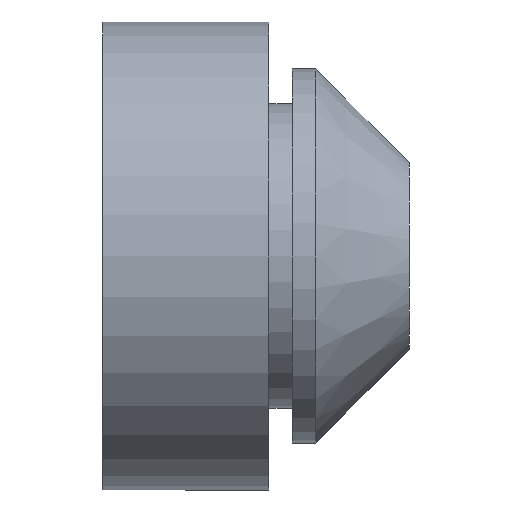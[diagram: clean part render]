
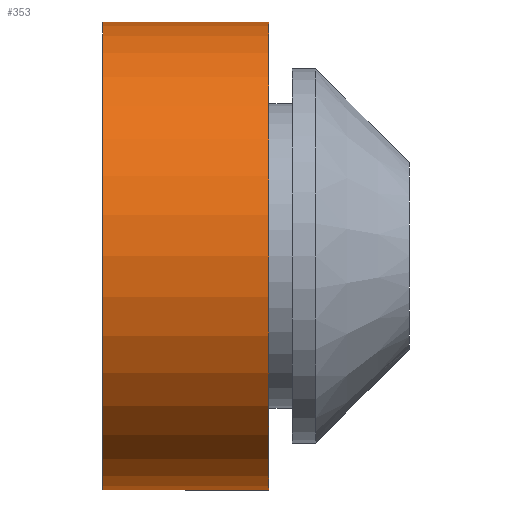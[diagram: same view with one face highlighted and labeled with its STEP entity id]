
A CAD part, left-side view. The second image highlights one B-rep face of the part: STEP entity #353.
In plain terms, the highlighted cylindrical face has radius 10 mm (diameter 20 mm), a partial arc.
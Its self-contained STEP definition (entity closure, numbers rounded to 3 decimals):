
#24 = FACE_OUTER_BOUND ( 'NONE', #323, .T. ) ;
#40 = CYLINDRICAL_SURFACE ( 'NONE', #118, 10. ) ;
#59 = EDGE_CURVE ( 'NONE', #324, #328, #345, .T. ) ;
#69 = EDGE_CURVE ( 'NONE', #333, #324, #301, .T. ) ;
#71 = EDGE_CURVE ( 'NONE', #333, #318, #341, .T. ) ;
#73 = EDGE_CURVE ( 'NONE', #318, #328, #311, .T. ) ;
#80 = AXIS2_PLACEMENT_3D ( 'NONE', #200, #199, #201 ) ;
#87 = AXIS2_PLACEMENT_3D ( 'NONE', #223, #247, #225 ) ;
#92 = DIRECTION ( 'NONE',  ( 0., 0., -1. ) ) ;
#93 = CARTESIAN_POINT ( 'NONE',  ( 0., 0., 0. ) ) ;
#99 = DIRECTION ( 'NONE',  ( 0., -1., 0. ) ) ;
#118 = AXIS2_PLACEMENT_3D ( 'NONE', #93, #99, #92 ) ;
#144 = CARTESIAN_POINT ( 'NONE',  ( 0., 13.1, 10. ) ) ;
#147 = CARTESIAN_POINT ( 'NONE',  ( 0., 6., -10. ) ) ;
#148 = CARTESIAN_POINT ( 'NONE',  ( 0., 6., 10. ) ) ;
#150 = CARTESIAN_POINT ( 'NONE',  ( 0., 13.1, -10. ) ) ;
#199 = DIRECTION ( 'NONE',  ( 0., -1., 0. ) ) ;
#200 = CARTESIAN_POINT ( 'NONE',  ( 0., 6., 0. ) ) ;
#201 = DIRECTION ( 'NONE',  ( 0., 0., -1. ) ) ;
#223 = CARTESIAN_POINT ( 'NONE',  ( 0., 13.1, 0. ) ) ;
#225 = DIRECTION ( 'NONE',  ( 0., 0., -1. ) ) ;
#232 = CARTESIAN_POINT ( 'NONE',  ( 0., 0., 10. ) ) ;
#233 = DIRECTION ( 'NONE',  ( 0., -1., 0. ) ) ;
#239 = CARTESIAN_POINT ( 'NONE',  ( 0., 0., -10. ) ) ;
#241 = DIRECTION ( 'NONE',  ( 0., -1., 0. ) ) ;
#247 = DIRECTION ( 'NONE',  ( 0., -1., 0. ) ) ;
#286 = ORIENTED_EDGE ( 'NONE', *, *, #59, .F. ) ;
#287 = ORIENTED_EDGE ( 'NONE', *, *, #73, .T. ) ;
#288 = ORIENTED_EDGE ( 'NONE', *, *, #71, .T. ) ;
#289 = ORIENTED_EDGE ( 'NONE', *, *, #69, .F. ) ;
#301 = LINE ( 'NONE', #232, #340 ) ;
#310 = VECTOR ( 'NONE', #241, 1000. ) ;
#311 = LINE ( 'NONE', #239, #310 ) ;
#318 = VERTEX_POINT ( 'NONE', #150 ) ;
#323 = EDGE_LOOP ( 'NONE', ( #289, #288, #287, #286 ) ) ;
#324 = VERTEX_POINT ( 'NONE', #148 ) ;
#328 = VERTEX_POINT ( 'NONE', #147 ) ;
#333 = VERTEX_POINT ( 'NONE', #144 ) ;
#340 = VECTOR ( 'NONE', #233, 1000. ) ;
#341 = CIRCLE ( 'NONE', #87, 10. ) ;
#345 = CIRCLE ( 'NONE', #80, 10. ) ;
#353 = ADVANCED_FACE ( 'NONE', ( #24 ), #40, .T. ) ;
